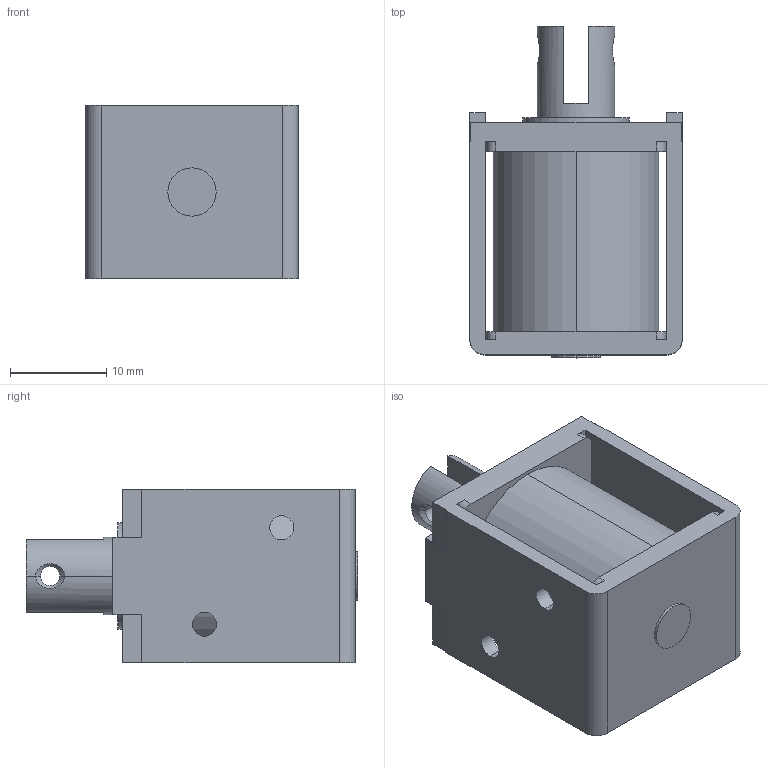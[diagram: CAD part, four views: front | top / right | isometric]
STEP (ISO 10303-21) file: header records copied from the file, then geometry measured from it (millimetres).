
FILE_DESCRIPTION (( 'STEP AP203' ), '1' );
FILE_NAME ('w_ca0625.STEP', '2014-07-08T03:05:44', ( 'jiba' ), ( 'Hewlett-Packard Company' ), 'SwSTEP 2.0', 'SolidWorks 2014', '' );
FILE_SCHEMA (( 'CONFIG_CONTROL_DESIGN' ));
Length unit declared in the file: millimetre
Products named in the file (3): Part1^w_ca0625; Part2^w_ca0625_pl; w_ca0625
Assembly tree (2 placements, depth 2):
  w_ca0625
    Part1^w_ca0625
    Part2^w_ca0625_pl
Bounding box: 22 x 34.4 x 18 mm (x, y, z)
Volume: 7876.6 mm3; surface area: 5224.9 mm2
Topology: 2 solids, 2 shells, 87 faces, 226 edges, 148 vertices
Faces by surface type: plane 47, cylinder 36, cone 4
Entity records: 3085 total; most frequent: CARTESIAN_POINT 558, DIRECTION 482, ORIENTED_EDGE 452, EDGE_CURVE 226, AXIS2_PLACEMENT_3D 168, VERTEX_POINT 148, LINE 146, VECTOR 146
